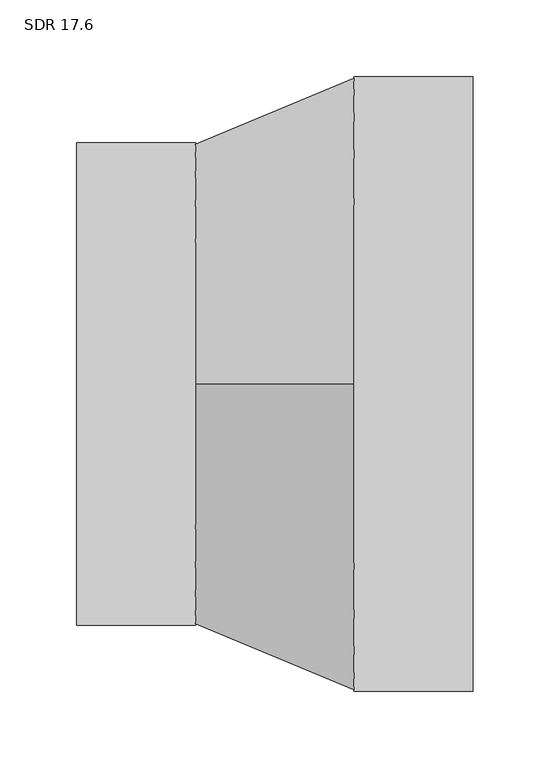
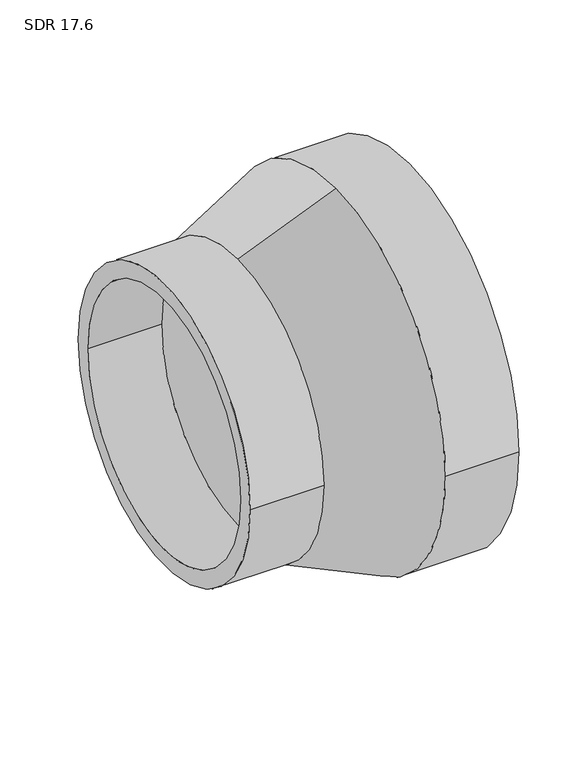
"""IFC4 building model written with IfcOpenShell, lengths in millimetres: pipe fitting geometry, Aquatherm - Reducing Coupling Combined - METRIC : SDR 17.6."""

from ifc_helpers import new_model, si_unit, frame, origin, place, context, project, spatial, polyline, circle_curve, source, transform, mapped, element, save
from ifc_brep_helpers import plane_surface, cylinder_surface, revolved_surface, advanced_brep


def sdr_17_6_5d70676b(model_context):
    return source(origin(), model_context, "Body", "AdvancedBrep", [
        advanced_brep(
        [(-129.54, -157.48, 0.0), (-129.54, 157.48, 0.0), (-129.54, -139.5845455, 0.0), (-129.54, 139.5845455, 0.0), (-51.816, 139.5845455, 0.0), (-51.816, 0.0, 139.5845455), (-51.816, -139.5845455, 0.0), (-51.816, 0.0, -139.5845455), (-51.816, 157.48, 0.0), (-51.816, 0.0, -157.48), (-51.816, -157.48, 0.0), (-51.816, 0.0, 157.48), (129.54, -200.66, 0.0), (129.54, 200.66, 0.0), (129.54, -177.8577273, 0.0), (129.54, 177.8577273, 0.0), (51.816, -200.66, 0.0), (51.816, 0.0, -200.66), (51.816, 200.66, 0.0), (51.816, 0.0, 200.66), (51.816, -177.8577273, 0.0), (51.816, 0.0, 177.8577273), (51.816, 177.8577273, 0.0), (51.816, 0.0, -177.8577273)],
        [
            (0, 1, circle_curve(frame((-129.54, 0.0, 0.0), z_axis=(-1.0, 0.0, 0.0), x_axis=(0.0, 1.0, 0.0)), 157.48)),
            (1, 0, circle_curve(frame((-129.54, 0.0, 0.0), z_axis=(-1.0, 0.0, 0.0), x_axis=(0.0, 1.0, 0.0)), 157.48)),
            (2, 3, circle_curve(frame((-129.54, 0.0, 0.0), z_axis=(1.0, 0.0, 0.0), x_axis=(0.0, 1.0, 0.0)), 139.5845455)),
            (3, 2, circle_curve(frame((-129.54, 0.0, 0.0), z_axis=(1.0, 0.0, 0.0), x_axis=(0.0, 1.0, 0.0)), 139.5845455)),
            (3, 4),
            (4, 5, circle_curve(frame((-51.816, 0.0, 0.0), z_axis=(1.0, 0.0, 0.0), x_axis=(0.0, 1.0, 0.0)), 139.5845455)),
            (5, 6, circle_curve(frame((-51.816, 0.0, 0.0), z_axis=(1.0, 0.0, 0.0), x_axis=(0.0, 1.0, 0.0)), 139.5845455)),
            (6, 2),
            (6, 7, circle_curve(frame((-51.816, 0.0, 0.0), z_axis=(1.0, 0.0, 0.0), x_axis=(0.0, 1.0, 0.0)), 139.5845455)),
            (7, 4, circle_curve(frame((-51.816, 0.0, 0.0), z_axis=(1.0, 0.0, 0.0), x_axis=(0.0, 1.0, 0.0)), 139.5845455)),
            (1, 8),
            (8, 9, circle_curve(frame((-51.816, 0.0, 0.0), z_axis=(-1.0, 0.0, 0.0), x_axis=(0.0, 1.0, 0.0)), 157.48)),
            (9, 10, circle_curve(frame((-51.816, 0.0, 0.0), z_axis=(-1.0, 0.0, 0.0), x_axis=(0.0, 1.0, 0.0)), 157.48)),
            (10, 0),
            (10, 11, circle_curve(frame((-51.816, 0.0, 0.0), z_axis=(-1.0, 0.0, 0.0), x_axis=(0.0, 1.0, 0.0)), 157.48)),
            (11, 8, circle_curve(frame((-51.816, 0.0, 0.0), z_axis=(-1.0, 0.0, 0.0), x_axis=(0.0, 1.0, 0.0)), 157.48)),
            (12, 13, circle_curve(frame((129.54, 0.0, 0.0), z_axis=(1.0, 0.0, 0.0), x_axis=(0.0, 1.0, 0.0)), 200.66)),
            (13, 12, circle_curve(frame((129.54, 0.0, 0.0), z_axis=(1.0, 0.0, 0.0), x_axis=(0.0, 1.0, 0.0)), 200.66)),
            (14, 15, circle_curve(frame((129.54, 0.0, 0.0), z_axis=(-1.0, 0.0, 0.0), x_axis=(0.0, 1.0, 0.0)), 177.8577273)),
            (15, 14, circle_curve(frame((129.54, 0.0, 0.0), z_axis=(-1.0, 0.0, 0.0), x_axis=(0.0, 1.0, 0.0)), 177.8577273)),
            (12, 16),
            (16, 17, circle_curve(frame((51.816, 0.0, 0.0), z_axis=(1.0, 0.0, 0.0), x_axis=(0.0, 1.0, 0.0)), 200.66)),
            (17, 18, circle_curve(frame((51.816, 0.0, 0.0), z_axis=(1.0, 0.0, 0.0), x_axis=(0.0, 1.0, 0.0)), 200.66)),
            (18, 13),
            (18, 19, circle_curve(frame((51.816, 0.0, 0.0), z_axis=(1.0, 0.0, 0.0), x_axis=(0.0, 1.0, 0.0)), 200.66)),
            (19, 16, circle_curve(frame((51.816, 0.0, 0.0), z_axis=(1.0, 0.0, 0.0), x_axis=(0.0, 1.0, 0.0)), 200.66)),
            (14, 20),
            (20, 21, circle_curve(frame((51.816, 0.0, 0.0), z_axis=(-1.0, 0.0, 0.0), x_axis=(0.0, 1.0, 0.0)), 177.8577273)),
            (21, 22, circle_curve(frame((51.816, 0.0, 0.0), z_axis=(-1.0, 0.0, 0.0), x_axis=(0.0, 1.0, 0.0)), 177.8577273)),
            (22, 15),
            (22, 23, circle_curve(frame((51.816, 0.0, 0.0), z_axis=(-1.0, 0.0, 0.0), x_axis=(0.0, 1.0, 0.0)), 177.8577273)),
            (23, 20, circle_curve(frame((51.816, 0.0, 0.0), z_axis=(-1.0, 0.0, 0.0), x_axis=(0.0, 1.0, 0.0)), 177.8577273)),
            (11, 19),
            (17, 9),
            (21, 5),
            (7, 23),
        ],
        [
            plane_surface(frame((-129.54, 139.5845455, 0.0), z_axis=(-1.0, 0.0, 0.0), x_axis=(0.0, 0.0, 1.0))),
            revolved_surface(polyline([(-129.54, 139.5845455, 0.0), (-51.816, 139.5845455, 0.0)]), (-129.54, 0.0, 0.0), (-1.0, 0.0, 0.0)),
            cylinder_surface(frame((0.0, 0.0, 0.0), z_axis=(1.0, 0.0, 0.0), x_axis=(0.0, 1.0, 0.0)), 157.48),
            plane_surface(frame((129.54, 200.66, 0.0), z_axis=(1.0, 0.0, 0.0), x_axis=(0.0, 0.0, 1.0))),
            cylinder_surface(frame((51.816, 0.0, 0.0), z_axis=(1.0, 0.0, 0.0), x_axis=(0.0, 1.0, 0.0)), 200.66),
            revolved_surface(polyline([(51.816, 177.8577273, 0.0), (129.54, 177.8577273, 0.0)]), (0.0, 0.0, 0.0), (-1.0, 0.0, 0.0)),
            revolved_surface(polyline([(51.816, 0.0, 200.66), (-51.816, 0.0, 157.48)]), (-704.7995384, 0.0, 0.0), (-1.0, 0.0, 0.0)),
            revolved_surface(polyline([(-51.816, 0.0, 139.5845455), (51.816, 0.0, 177.8577273)]), (-704.7995384, 0.0, 0.0), (-1.0, 0.0, 0.0)),
        ],
        [
            (0, [[1, 2], [3, 4]]),
            (1, [[-4, 5, 6, 7, 8]]),
            (1, [[-3, -8, 9, 10, -5]]),
            (2, [[-2, 11, 12, 13, 14]]),
            (2, [[-1, -14, 15, 16, -11]]),
            (3, [[17, 18], [19, 20]]),
            (4, [[-17, 21, 22, 23, 24]]),
            (4, [[-18, -24, 25, 26, -21]]),
            (5, [[-19, 27, 28, 29, 30]]),
            (5, [[-20, -30, 31, 32, -27]]),
            (6, [[33, -25, -23, 34, -12, -16]]),
            (6, [[-33, -15, -13, -34, -22, -26]]),
            (7, [[35, -6, -10, 36, -31, -29]]),
            (7, [[-35, -28, -32, -36, -9, -7]]),
        ],
    ),
    ])


if __name__ == "__main__":
    model = new_model("IFC4")
    model_context = context("Model", 3, world=origin())
    ifc_project = project(units=[si_unit("LENGTHUNIT", "METRE", prefix="MILLI")], contexts=[model_context])
    site = spatial("IfcSite", under=ifc_project)
    building = spatial("IfcBuilding", under=site)
    placement = place(None, origin())
    sdr_17_6_shape = sdr_17_6_5d70676b(model_context)
    element("IfcPipeFitting", 1, ObjectType="Aquatherm - Reducing Coupling Combined - METRIC : SDR 17.6", at=placement, inside=building, context=model_context, shape_type="MappedRepresentation", body=[
        mapped(sdr_17_6_shape, transform((0.0, 0.0, 0.0), x_axis=(1.0, 0.0, 0.0), y_axis=(0.0, 1.0, 0.0), z_axis=(0.0, 0.0, 1.0))),
    ])
    save(model, "model.ifc")
